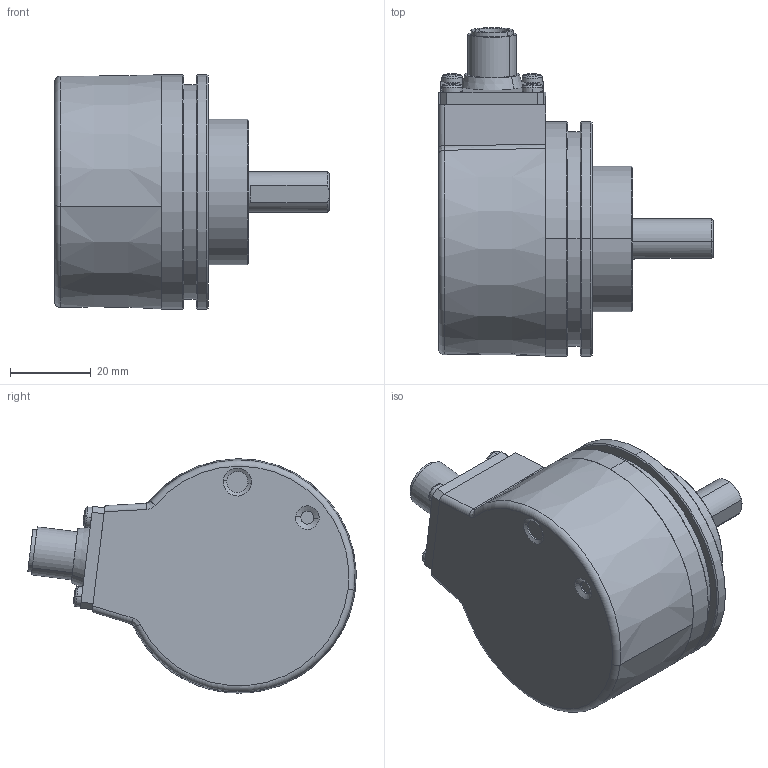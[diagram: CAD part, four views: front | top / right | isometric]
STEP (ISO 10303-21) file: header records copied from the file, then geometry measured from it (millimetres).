
FILE_DESCRIPTION (( 'STEP AP203' ), '1' );
FILE_NAME ('8.5814.12X6.XXXX.STEP', '2013-11-21T07:59:10', ( 'HeirlerN' ), ( 'Microsoft' ), 'SwSTEP 2.0', 'SolidWorks 2013', '' );
FILE_SCHEMA (( 'CONFIG_CONTROL_DESIGN' ));
Length unit declared in the file: millimetre
Products named in the file (1): 8.5814.12X6.XXXX
Bounding box: 68 x 81.25 x 58 mm (x, y, z)
Volume: 64832.1 mm3; surface area: 40859.9 mm2
Topology: 9 solids, 9 shells, 757 faces, 1876 edges, 1133 vertices
Faces by surface type: cylinder 225, plane 196, cone 180, torus 80, sphere 44, bspline 32
Entity records: 23501 total; most frequent: CARTESIAN_POINT 5983, DIRECTION 3875, ORIENTED_EDGE 3508, EDGE_CURVE 1754, AXIS2_PLACEMENT_3D 1618, VERTEX_POINT 1087, CIRCLE 892, EDGE_LOOP 863
